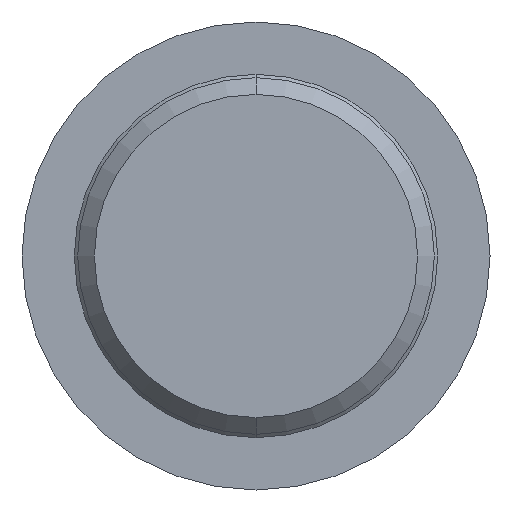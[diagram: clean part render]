
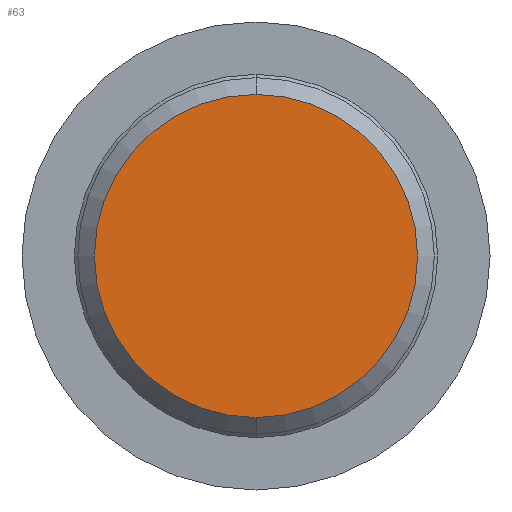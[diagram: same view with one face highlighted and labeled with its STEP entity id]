
A CAD part, front view. The second image highlights one B-rep face of the part: STEP entity #63.
In plain terms, the highlighted planar face has unit normal (0, -1, 0).
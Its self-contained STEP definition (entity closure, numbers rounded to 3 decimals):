
#23 = ORIENTED_EDGE ( 'NONE', *, *, #181, .F. ) ;
#63 = ADVANCED_FACE ( 'NONE', ( #645 ), #173, .F. ) ;
#91 = DIRECTION ( 'NONE',  ( 0., 1., 0. ) ) ;
#123 = EDGE_LOOP ( 'NONE', ( #577, #23 ) ) ;
#165 = DIRECTION ( 'NONE',  ( 0., 1., 0. ) ) ;
#173 = PLANE ( 'NONE',  #721 ) ;
#181 = EDGE_CURVE ( 'NONE', #554, #285, #741, .T. ) ;
#215 = CARTESIAN_POINT ( 'NONE',  ( 0., 0., 0. ) ) ;
#272 = CARTESIAN_POINT ( 'NONE',  ( 0., 0., 0. ) ) ;
#285 = VERTEX_POINT ( 'NONE', #683 ) ;
#293 = DIRECTION ( 'NONE',  ( 0., 0., 1. ) ) ;
#317 = AXIS2_PLACEMENT_3D ( 'NONE', #272, #91, #463 ) ;
#429 = EDGE_CURVE ( 'NONE', #285, #554, #547, .T. ) ;
#463 = DIRECTION ( 'NONE',  ( 0., 0., 1. ) ) ;
#547 = CIRCLE ( 'NONE', #317, 7.25 ) ;
#554 = VERTEX_POINT ( 'NONE', #759 ) ;
#577 = ORIENTED_EDGE ( 'NONE', *, *, #429, .F. ) ;
#645 = FACE_OUTER_BOUND ( 'NONE', #123, .T. ) ;
#647 = AXIS2_PLACEMENT_3D ( 'NONE', #215, #686, #693 ) ;
#682 = CARTESIAN_POINT ( 'NONE',  ( 7.25, 0., 0. ) ) ;
#683 = CARTESIAN_POINT ( 'NONE',  ( 0., 0., 7.25 ) ) ;
#686 = DIRECTION ( 'NONE',  ( 0., 1., 0. ) ) ;
#693 = DIRECTION ( 'NONE',  ( 0., 0., 1. ) ) ;
#721 = AXIS2_PLACEMENT_3D ( 'NONE', #682, #165, #293 ) ;
#741 = CIRCLE ( 'NONE', #647, 7.25 ) ;
#759 = CARTESIAN_POINT ( 'NONE',  ( 0., 0., -7.25 ) ) ;
